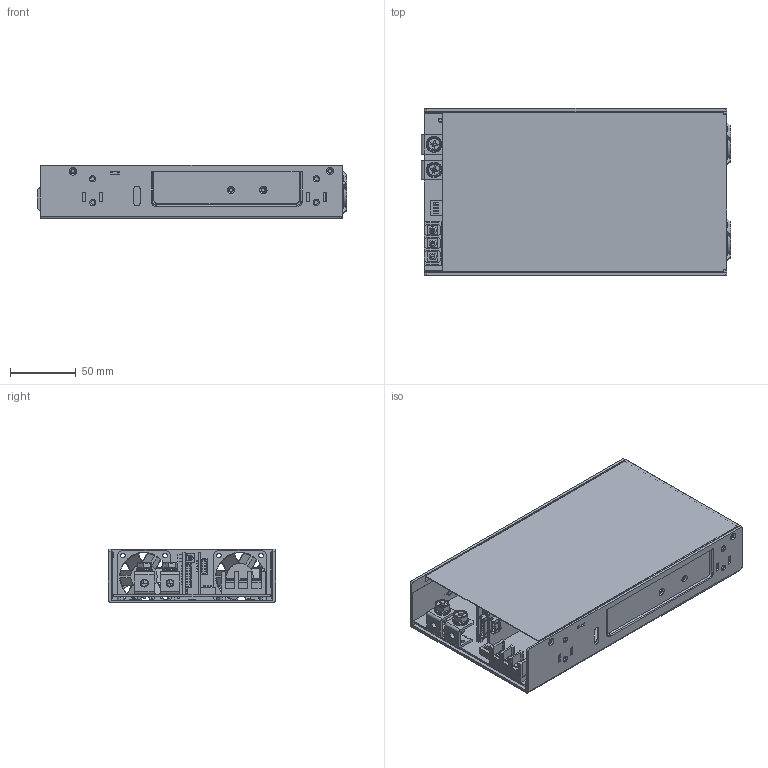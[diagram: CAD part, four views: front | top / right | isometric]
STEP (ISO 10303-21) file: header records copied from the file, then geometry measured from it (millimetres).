
FILE_DESCRIPTION((''),'2;1');
FILE_NAME('NSP-1000_ASM','2025-11-03T15:30:07',('shalinice'),(''),'CREO PARAMETRIC BY PTC INC, 2017110','CREO PARAMETRIC BY PTC INC, 2017110','');
FILE_SCHEMA(('AUTOMOTIVE_DESIGN { 1 0 10303 214 1 1 1 1 }'));
Products named in the file (34): 26D77668-81B1-466B-87E3-FC1E3B3; 00_ASM_1_ASM; _S_JU_S____1; A1_1; NSP-1000-T_4; NSP-1000-MYLAR_1; P2_5_PRT_4; NSP-1000ABCD-1028_1; P3_1_1; 4ASS4-6R0-12N_1_1; 4ASS4-6R0-12N_1_2; 4ASS4-6R0-12N_1_ASM; TB1_AF0_ASM_1_ASM; TB1_AF1_ASM_1_ASM; 1EE4-T25-EM11-03_1; MHS_3; NSP-1000C_2; 1FF1DH2L-08_1_2; NSP-1000B_3; 1FF1DH2L-12_1_2_2; L311_ASM_2_ASM; 1AR-_3362W_1_1; 1AR-_3362W_2_1; 1AR-_3362W_3_1; 1AR-_3362W_4_1; 1AR-_3362W_5_1; 1AR-_3362W_6_1; 1AR-_3362W_7_1; 1AR-_3362W_8_1; 1AR-_3362W_ASM_1_ASM; VR51_ASM_1_ASM; 0003_2; BASE_ASM_11_ASM; NSP-1000_ASM
Assembly tree (36 placements, depth 5):
  NSP-1000_ASM
    BASE_ASM_11_ASM
      00_ASM_1_ASM
        26D77668-81B1-466B-87E3-FC1E3B3  x2
      _S_JU_S____1
      A1_1
      NSP-1000-T_4
      NSP-1000-MYLAR_1
      P2_5_PRT_4
      NSP-1000ABCD-1028_1
      TB1_AF0_ASM_1_ASM
        P3_1_1
        4ASS4-6R0-12N_1_ASM
          4ASS4-6R0-12N_1_1
          4ASS4-6R0-12N_1_2
      TB1_AF1_ASM_1_ASM
        P3_1_1
        4ASS4-6R0-12N_1_ASM
          4ASS4-6R0-12N_1_1
          4ASS4-6R0-12N_1_2
      1EE4-T25-EM11-03_1
      MHS_3
      NSP-1000C_2
      1FF1DH2L-08_1_2
      NSP-1000B_3
      L311_ASM_2_ASM
        1FF1DH2L-12_1_2_2
      VR51_ASM_1_ASM
        1AR-_3362W_ASM_1_ASM
          1AR-_3362W_1_1
          1AR-_3362W_2_1
          1AR-_3362W_3_1
          1AR-_3362W_4_1
          1AR-_3362W_5_1
          1AR-_3362W_6_1
          1AR-_3362W_7_1
          1AR-_3362W_8_1
      0003_2
Bounding box: 235 x 127 x 41 mm (x, y, z)
Volume: 216458 mm3; surface area: 329511.7 mm2
Topology: 27 solids, 32 shells, 2245 faces, 5974 edges, 3878 vertices
Faces by surface type: plane 1407, cylinder 551, torus 132, cone 84, extrusion 57, bspline 12, sphere 2
Entity records: 82343 total; most frequent: CARTESIAN_POINT 15354, ORIENTED_EDGE 10646, DIRECTION 10628, EDGE_CURVE 5331, VECTOR 3602, LINE 3545, AXIS2_PLACEMENT_3D 3513, VERTEX_POINT 3457
